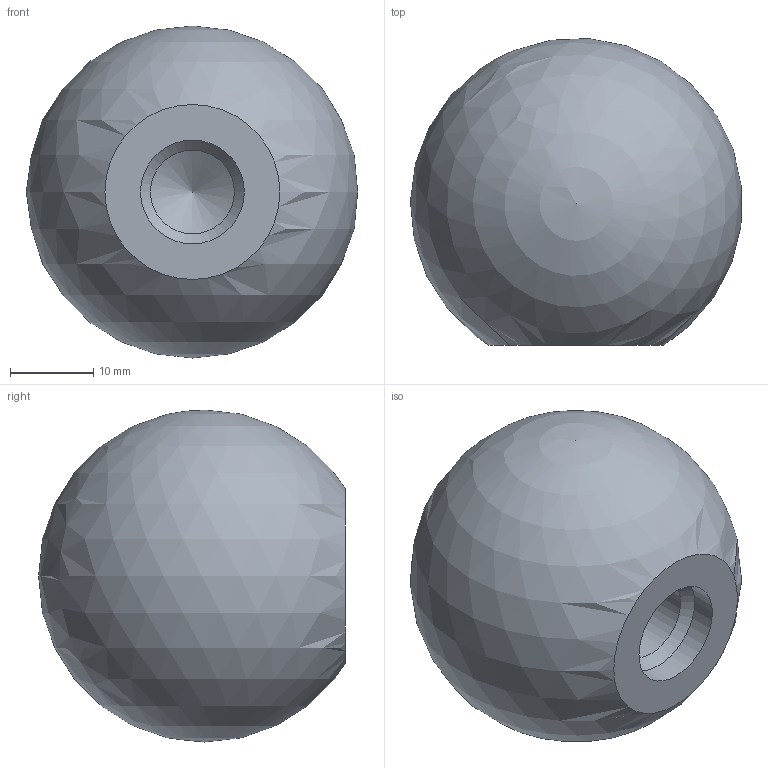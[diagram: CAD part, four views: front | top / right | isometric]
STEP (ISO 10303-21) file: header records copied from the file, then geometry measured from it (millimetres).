
FILE_DESCRIPTION (( 'STEP AP214' ), '1' );
FILE_NAME ('319-KU-40-M12-C.step', '2019-04-24T08:50:32', ( 'user' ), ( '' ), 'SwSTEP 2.0', 'SolidWorks 2019', '' );
FILE_SCHEMA (( 'AUTOMOTIVE_DESIGN' ));
Length unit declared in the file: millimetre
Products named in the file (1): 319-KU-40-M12-C
Bounding box: 39.9 x 36.95 x 40 mm (x, y, z)
Volume: 31297.5 mm3; surface area: 5584.9 mm2
Topology: 1 solids, 1 shells, 6 faces, 15 edges, 10 vertices
Faces by surface type: cone 2, cylinder 2, plane 1, sphere 1
Full cylindrical faces by diameter (mm): 10.1 x1, 12.5 x1
Entity records: 159 total; most frequent: DIRECTION 24, CARTESIAN_POINT 17, AXIS2_PLACEMENT_3D 12, EDGE_LOOP 10, ORIENTED_EDGE 10, FACE_OUTER_BOUND 8, ADVANCED_FACE 6, VERTEX_POINT 5
